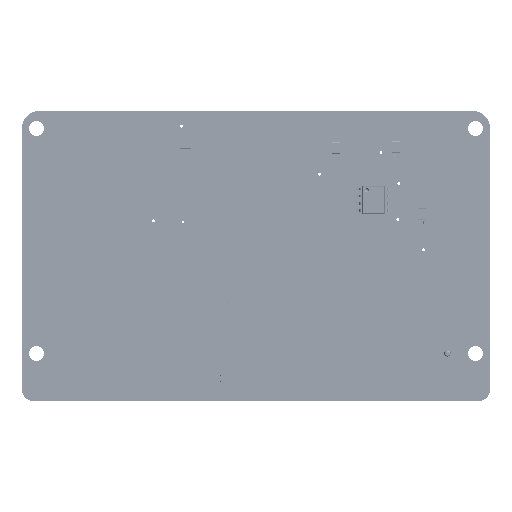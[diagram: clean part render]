
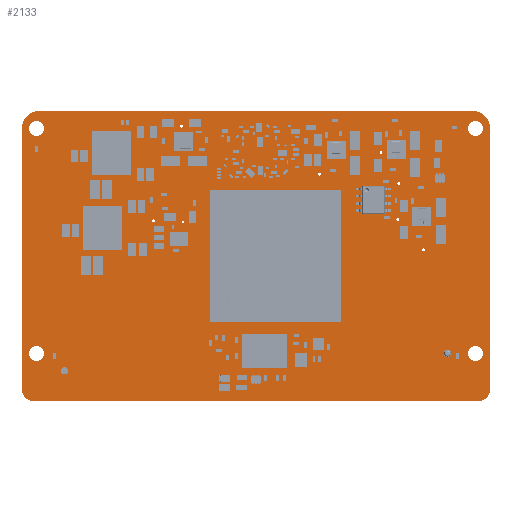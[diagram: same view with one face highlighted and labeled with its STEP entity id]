
A CAD part, top view. The second image highlights one B-rep face of the part: STEP entity #2133.
In plain terms, the highlighted planar face has unit normal (0, 0, 1).
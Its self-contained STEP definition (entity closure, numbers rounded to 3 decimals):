
#1364 = VERTEX_POINT('',#1365);
#1365 = CARTESIAN_POINT('',(2.,0.,1.484));
#1371 = EDGE_CURVE('',#1364,#1372,#1374,.T.);
#1372 = VERTEX_POINT('',#1373);
#1373 = CARTESIAN_POINT('',(0.,2.,1.484));
#1374 = CIRCLE('',#1375,2.001);
#1375 = AXIS2_PLACEMENT_3D('',#1376,#1377,#1378);
#1376 = CARTESIAN_POINT('',(2.001,2.001,1.484));
#1377 = DIRECTION('',(0.,0.,-1.));
#1378 = DIRECTION('',(0.,-1.,-0.));
#1404 = EDGE_CURVE('',#1372,#1405,#1407,.T.);
#1405 = VERTEX_POINT('',#1406);
#1406 = CARTESIAN_POINT('',(0.,47.8,1.484));
#1407 = LINE('',#1408,#1409);
#1408 = CARTESIAN_POINT('',(0.,2.,1.484));
#1409 = VECTOR('',#1410,1.);
#1410 = DIRECTION('',(0.,1.,0.));
#1435 = EDGE_CURVE('',#1405,#1436,#1438,.T.);
#1436 = VERTEX_POINT('',#1437);
#1437 = CARTESIAN_POINT('',(3.,50.8,1.484));
#1438 = CIRCLE('',#1439,3.001);
#1439 = AXIS2_PLACEMENT_3D('',#1440,#1441,#1442);
#1440 = CARTESIAN_POINT('',(3.001,47.799,1.484));
#1441 = DIRECTION('',(0.,0.,-1.));
#1442 = DIRECTION('',(-1.,0.,0.));
#1468 = EDGE_CURVE('',#1436,#1469,#1471,.T.);
#1469 = VERTEX_POINT('',#1470);
#1470 = CARTESIAN_POINT('',(79.,50.8,1.484));
#1471 = LINE('',#1472,#1473);
#1472 = CARTESIAN_POINT('',(3.,50.8,1.484));
#1473 = VECTOR('',#1474,1.);
#1474 = DIRECTION('',(1.,0.,0.));
#1499 = EDGE_CURVE('',#1469,#1500,#1502,.T.);
#1500 = VERTEX_POINT('',#1501);
#1501 = CARTESIAN_POINT('',(82.,47.8,1.484));
#1502 = CIRCLE('',#1503,3.001);
#1503 = AXIS2_PLACEMENT_3D('',#1504,#1505,#1506);
#1504 = CARTESIAN_POINT('',(78.999,47.799,1.484));
#1505 = DIRECTION('',(0.,0.,-1.));
#1506 = DIRECTION('',(0.,1.,0.));
#1532 = EDGE_CURVE('',#1500,#1533,#1535,.T.);
#1533 = VERTEX_POINT('',#1534);
#1534 = CARTESIAN_POINT('',(82.,2.,1.484));
#1535 = LINE('',#1536,#1537);
#1536 = CARTESIAN_POINT('',(82.,47.8,1.484));
#1537 = VECTOR('',#1538,1.);
#1538 = DIRECTION('',(0.,-1.,0.));
#1563 = EDGE_CURVE('',#1533,#1564,#1566,.T.);
#1564 = VERTEX_POINT('',#1565);
#1565 = CARTESIAN_POINT('',(80.,0.,1.484));
#1566 = CIRCLE('',#1567,2.001);
#1567 = AXIS2_PLACEMENT_3D('',#1568,#1569,#1570);
#1568 = CARTESIAN_POINT('',(79.999,2.001,1.484));
#1569 = DIRECTION('',(0.,0.,-1.));
#1570 = DIRECTION('',(1.,0.,0.));
#1596 = EDGE_CURVE('',#1564,#1364,#1597,.T.);
#1597 = LINE('',#1598,#1599);
#1598 = CARTESIAN_POINT('',(80.,0.,1.484));
#1599 = VECTOR('',#1600,1.);
#1600 = DIRECTION('',(-1.,0.,0.));
#1620 = VERTEX_POINT('',#1621);
#1621 = CARTESIAN_POINT('',(3.848,8.322,1.484));
#1627 = EDGE_CURVE('',#1620,#1620,#1628,.T.);
#1628 = CIRCLE('',#1629,1.3);
#1629 = AXIS2_PLACEMENT_3D('',#1630,#1631,#1632);
#1630 = CARTESIAN_POINT('',(2.548,8.322,1.484));
#1631 = DIRECTION('',(0.,0.,1.));
#1632 = DIRECTION('',(1.,0.,-0.));
#1653 = VERTEX_POINT('',#1654);
#1654 = CARTESIAN_POINT('',(8.103,5.272,1.484));
#1660 = EDGE_CURVE('',#1653,#1653,#1661,.T.);
#1661 = CIRCLE('',#1662,0.635);
#1662 = AXIS2_PLACEMENT_3D('',#1663,#1664,#1665);
#1663 = CARTESIAN_POINT('',(7.468,5.272,1.484));
#1664 = DIRECTION('',(0.,0.,1.));
#1665 = DIRECTION('',(1.,0.,-0.));
#1686 = VERTEX_POINT('',#1687);
#1687 = CARTESIAN_POINT('',(28.453,31.37,1.484));
#1693 = EDGE_CURVE('',#1686,#1686,#1694,.T.);
#1694 = CIRCLE('',#1695,0.254);
#1695 = AXIS2_PLACEMENT_3D('',#1696,#1697,#1698);
#1696 = CARTESIAN_POINT('',(28.199,31.37,1.484));
#1697 = DIRECTION('',(0.,0.,1.));
#1698 = DIRECTION('',(1.,0.,-0.));
#1719 = VERTEX_POINT('',#1720);
#1720 = CARTESIAN_POINT('',(23.32,31.59,1.484));
#1726 = EDGE_CURVE('',#1719,#1719,#1727,.T.);
#1727 = CIRCLE('',#1728,0.254);
#1728 = AXIS2_PLACEMENT_3D('',#1729,#1730,#1731);
#1729 = CARTESIAN_POINT('',(23.066,31.59,1.484));
#1730 = DIRECTION('',(0.,0.,1.));
#1731 = DIRECTION('',(1.,0.,-0.));
#1752 = VERTEX_POINT('',#1753);
#1753 = CARTESIAN_POINT('',(3.848,47.752,1.484));
#1759 = EDGE_CURVE('',#1752,#1752,#1760,.T.);
#1760 = CIRCLE('',#1761,1.3);
#1761 = AXIS2_PLACEMENT_3D('',#1762,#1763,#1764);
#1762 = CARTESIAN_POINT('',(2.548,47.752,1.484));
#1763 = DIRECTION('',(0.,0.,1.));
#1764 = DIRECTION('',(1.,0.,-0.));
#1785 = VERTEX_POINT('',#1786);
#1786 = CARTESIAN_POINT('',(52.364,39.744,1.484));
#1792 = EDGE_CURVE('',#1785,#1785,#1793,.T.);
#1793 = CIRCLE('',#1794,0.254);
#1794 = AXIS2_PLACEMENT_3D('',#1795,#1796,#1797);
#1795 = CARTESIAN_POINT('',(52.11,39.744,1.484));
#1796 = DIRECTION('',(0.,0.,1.));
#1797 = DIRECTION('',(1.,0.,-0.));
#1818 = VERTEX_POINT('',#1819);
#1819 = CARTESIAN_POINT('',(28.186,48.125,1.484));
#1825 = EDGE_CURVE('',#1818,#1818,#1826,.T.);
#1826 = CIRCLE('',#1827,0.254);
#1827 = AXIS2_PLACEMENT_3D('',#1828,#1829,#1830);
#1828 = CARTESIAN_POINT('',(27.932,48.125,1.484));
#1829 = DIRECTION('',(0.,0.,1.));
#1830 = DIRECTION('',(1.,0.,-0.));
#1851 = VERTEX_POINT('',#1852);
#1852 = CARTESIAN_POINT('',(70.596,26.506,1.484));
#1858 = EDGE_CURVE('',#1851,#1851,#1859,.T.);
#1859 = CIRCLE('',#1860,0.254);
#1860 = AXIS2_PLACEMENT_3D('',#1861,#1862,#1863);
#1861 = CARTESIAN_POINT('',(70.342,26.506,1.484));
#1862 = DIRECTION('',(0.,0.,1.));
#1863 = DIRECTION('',(1.,0.,-0.));
#1884 = VERTEX_POINT('',#1885);
#1885 = CARTESIAN_POINT('',(75.183,8.322,1.484));
#1891 = EDGE_CURVE('',#1884,#1884,#1892,.T.);
#1892 = CIRCLE('',#1893,0.635);
#1893 = AXIS2_PLACEMENT_3D('',#1894,#1895,#1896);
#1894 = CARTESIAN_POINT('',(74.548,8.322,1.484));
#1895 = DIRECTION('',(0.,0.,1.));
#1896 = DIRECTION('',(1.,0.,-0.));
#1917 = VERTEX_POINT('',#1918);
#1918 = CARTESIAN_POINT('',(80.752,8.322,1.484));
#1924 = EDGE_CURVE('',#1917,#1917,#1925,.T.);
#1925 = CIRCLE('',#1926,1.3);
#1926 = AXIS2_PLACEMENT_3D('',#1927,#1928,#1929);
#1927 = CARTESIAN_POINT('',(79.452,8.322,1.484));
#1928 = DIRECTION('',(0.,0.,1.));
#1929 = DIRECTION('',(1.,0.,-0.));
#1950 = VERTEX_POINT('',#1951);
#1951 = CARTESIAN_POINT('',(66.118,31.818,1.484));
#1957 = EDGE_CURVE('',#1950,#1950,#1958,.T.);
#1958 = CIRCLE('',#1959,0.254);
#1959 = AXIS2_PLACEMENT_3D('',#1960,#1961,#1962);
#1960 = CARTESIAN_POINT('',(65.864,31.818,1.484));
#1961 = DIRECTION('',(0.,0.,1.));
#1962 = DIRECTION('',(1.,0.,-0.));
#1983 = VERTEX_POINT('',#1984);
#1984 = CARTESIAN_POINT('',(63.15,43.59,1.484));
#1990 = EDGE_CURVE('',#1983,#1983,#1991,.T.);
#1991 = CIRCLE('',#1992,0.254);
#1992 = AXIS2_PLACEMENT_3D('',#1993,#1994,#1995);
#1993 = CARTESIAN_POINT('',(62.896,43.59,1.484));
#1994 = DIRECTION('',(0.,0.,1.));
#1995 = DIRECTION('',(1.,0.,-0.));
#2016 = VERTEX_POINT('',#2017);
#2017 = CARTESIAN_POINT('',(66.273,38.065,1.484));
#2023 = EDGE_CURVE('',#2016,#2016,#2024,.T.);
#2024 = CIRCLE('',#2025,0.254);
#2025 = AXIS2_PLACEMENT_3D('',#2026,#2027,#2028);
#2026 = CARTESIAN_POINT('',(66.019,38.065,1.484));
#2027 = DIRECTION('',(0.,0.,1.));
#2028 = DIRECTION('',(1.,0.,-0.));
#2049 = VERTEX_POINT('',#2050);
#2050 = CARTESIAN_POINT('',(80.752,47.752,1.484));
#2056 = EDGE_CURVE('',#2049,#2049,#2057,.T.);
#2057 = CIRCLE('',#2058,1.3);
#2058 = AXIS2_PLACEMENT_3D('',#2059,#2060,#2061);
#2059 = CARTESIAN_POINT('',(79.452,47.752,1.484));
#2060 = DIRECTION('',(0.,0.,1.));
#2061 = DIRECTION('',(1.,0.,-0.));
#2133 = ADVANCED_FACE('',(#2134,#2144,#2147,#2150,#2153,#2156,#2159,
    #2162,#2165,#2168,#2171,#2174,#2177,#2180,#2183),#2186,.F.);
#2134 = FACE_BOUND('',#2135,.F.);
#2135 = EDGE_LOOP('',(#2136,#2137,#2138,#2139,#2140,#2141,#2142,#2143));
#2136 = ORIENTED_EDGE('',*,*,#1371,.T.);
#2137 = ORIENTED_EDGE('',*,*,#1404,.T.);
#2138 = ORIENTED_EDGE('',*,*,#1435,.T.);
#2139 = ORIENTED_EDGE('',*,*,#1468,.T.);
#2140 = ORIENTED_EDGE('',*,*,#1499,.T.);
#2141 = ORIENTED_EDGE('',*,*,#1532,.T.);
#2142 = ORIENTED_EDGE('',*,*,#1563,.T.);
#2143 = ORIENTED_EDGE('',*,*,#1596,.T.);
#2144 = FACE_BOUND('',#2145,.F.);
#2145 = EDGE_LOOP('',(#2146));
#2146 = ORIENTED_EDGE('',*,*,#1627,.T.);
#2147 = FACE_BOUND('',#2148,.F.);
#2148 = EDGE_LOOP('',(#2149));
#2149 = ORIENTED_EDGE('',*,*,#1660,.T.);
#2150 = FACE_BOUND('',#2151,.F.);
#2151 = EDGE_LOOP('',(#2152));
#2152 = ORIENTED_EDGE('',*,*,#1693,.T.);
#2153 = FACE_BOUND('',#2154,.F.);
#2154 = EDGE_LOOP('',(#2155));
#2155 = ORIENTED_EDGE('',*,*,#1726,.T.);
#2156 = FACE_BOUND('',#2157,.F.);
#2157 = EDGE_LOOP('',(#2158));
#2158 = ORIENTED_EDGE('',*,*,#1759,.T.);
#2159 = FACE_BOUND('',#2160,.F.);
#2160 = EDGE_LOOP('',(#2161));
#2161 = ORIENTED_EDGE('',*,*,#1792,.T.);
#2162 = FACE_BOUND('',#2163,.F.);
#2163 = EDGE_LOOP('',(#2164));
#2164 = ORIENTED_EDGE('',*,*,#1825,.T.);
#2165 = FACE_BOUND('',#2166,.F.);
#2166 = EDGE_LOOP('',(#2167));
#2167 = ORIENTED_EDGE('',*,*,#1858,.T.);
#2168 = FACE_BOUND('',#2169,.F.);
#2169 = EDGE_LOOP('',(#2170));
#2170 = ORIENTED_EDGE('',*,*,#1891,.T.);
#2171 = FACE_BOUND('',#2172,.F.);
#2172 = EDGE_LOOP('',(#2173));
#2173 = ORIENTED_EDGE('',*,*,#1924,.T.);
#2174 = FACE_BOUND('',#2175,.F.);
#2175 = EDGE_LOOP('',(#2176));
#2176 = ORIENTED_EDGE('',*,*,#1957,.T.);
#2177 = FACE_BOUND('',#2178,.F.);
#2178 = EDGE_LOOP('',(#2179));
#2179 = ORIENTED_EDGE('',*,*,#1990,.T.);
#2180 = FACE_BOUND('',#2181,.F.);
#2181 = EDGE_LOOP('',(#2182));
#2182 = ORIENTED_EDGE('',*,*,#2023,.T.);
#2183 = FACE_BOUND('',#2184,.F.);
#2184 = EDGE_LOOP('',(#2185));
#2185 = ORIENTED_EDGE('',*,*,#2056,.T.);
#2186 = PLANE('',#2187);
#2187 = AXIS2_PLACEMENT_3D('',#2188,#2189,#2190);
#2188 = CARTESIAN_POINT('',(41.,25.31,1.484));
#2189 = DIRECTION('',(-0.,-0.,-1.));
#2190 = DIRECTION('',(-1.,0.,0.));
